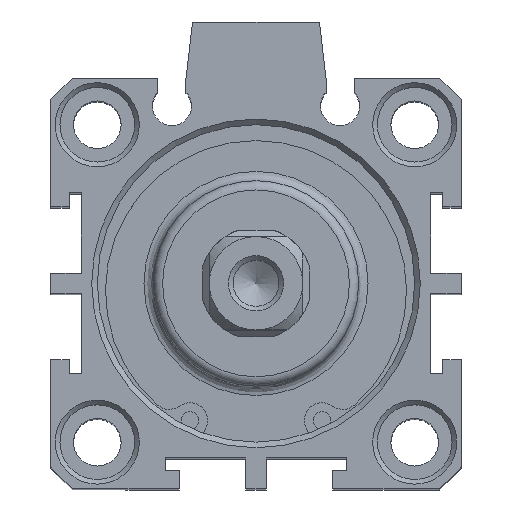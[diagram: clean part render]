
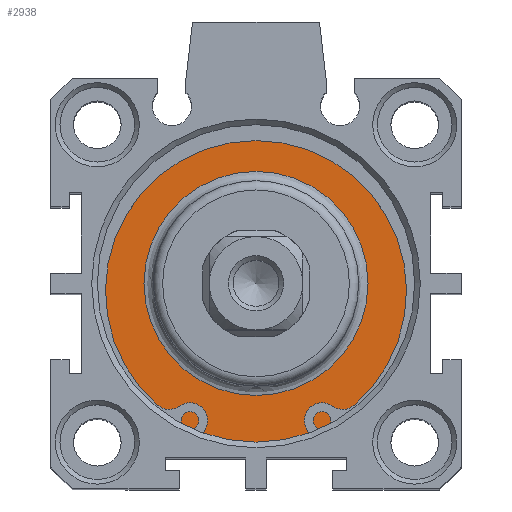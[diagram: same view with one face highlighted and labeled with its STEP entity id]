
A CAD part, top view. The second image highlights one B-rep face of the part: STEP entity #2938.
In plain terms, the highlighted planar face has unit normal (0, 0, 1).
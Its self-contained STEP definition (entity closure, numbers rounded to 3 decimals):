
#2887=CARTESIAN_POINT('',(-3.726,11.88,70.3));
#2888=VERTEX_POINT('',#2887);
#2889=CARTESIAN_POINT('',(-3.726,-0.12,70.3));
#2890=DIRECTION('',(0.0,0.0,1.0));
#2891=DIRECTION('',(0.0,-1.0,0.0));
#2892=AXIS2_PLACEMENT_3D('',#2889,#2890,#2891);
#2893=CIRCLE('',#2892,12.);
#2894=EDGE_CURVE('',#2888,#2888,#2893,.T.);
#2919=CARTESIAN_POINT('',(-3.726,13.88,70.3));
#2920=DIRECTION('',(0.0,0.0,1.0));
#2921=DIRECTION('',(1.0,0.0,0.0));
#2922=AXIS2_PLACEMENT_3D('',#2919,#2920,#2921);
#2923=PLANE('',#2922);
#2924=CARTESIAN_POINT('',(-3.726,16.88,70.3));
#2925=VERTEX_POINT('',#2924);
#2926=CARTESIAN_POINT('',(-3.726,-0.12,70.3));
#2927=DIRECTION('',(0.0,0.0,-1.0));
#2928=DIRECTION('',(0.0,1.0,0.0));
#2929=AXIS2_PLACEMENT_3D('',#2926,#2927,#2928);
#2930=CIRCLE('',#2929,17.);
#2931=EDGE_CURVE('',#2925,#2925,#2930,.T.);
#2932=ORIENTED_EDGE('',*,*,#2931,.F.);
#2933=EDGE_LOOP('',(#2932));
#2934=FACE_OUTER_BOUND('',#2933,.T.);
#2935=ORIENTED_EDGE('',*,*,#2894,.F.);
#2936=EDGE_LOOP('',(#2935));
#2937=FACE_BOUND('',#2936,.T.);
#2938=ADVANCED_FACE('',(#2934,#2937),#2923,.T.);
